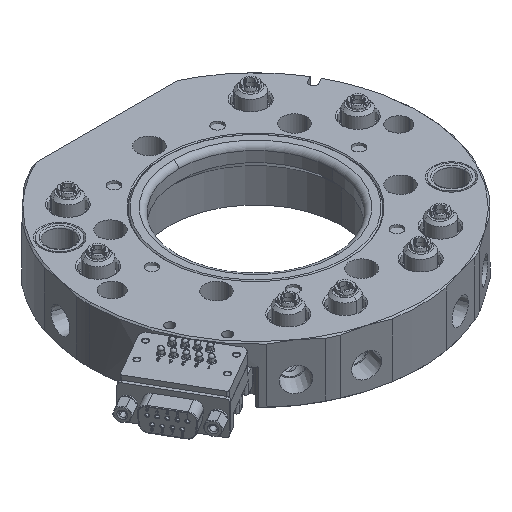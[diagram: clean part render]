
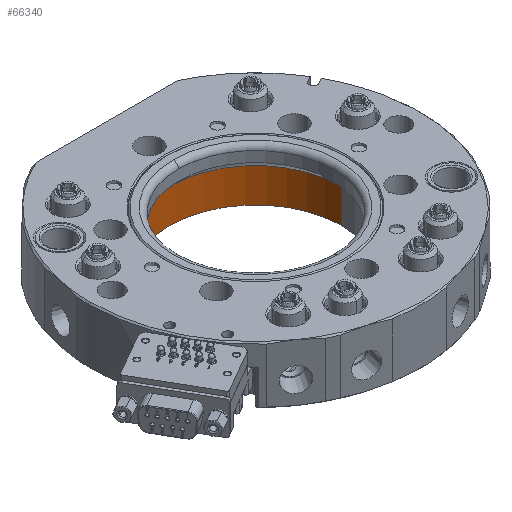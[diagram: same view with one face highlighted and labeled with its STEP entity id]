
A CAD part, isometric view. The second image highlights one B-rep face of the part: STEP entity #66340.
In plain terms, the highlighted cylindrical face has radius 32.2 mm (diameter 64.4 mm), a partial arc.
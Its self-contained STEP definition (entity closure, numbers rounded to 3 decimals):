
#2806 = LINE ( 'NONE', #19590, #66146 ) ;
#3097 = AXIS2_PLACEMENT_3D ( 'NONE', #73820, #15345, #73311 ) ;
#3705 = CARTESIAN_POINT ( 'NONE',  ( 0., 0., 0. ) ) ;
#5723 = VERTEX_POINT ( 'NONE', #50953 ) ;
#7867 = DIRECTION ( 'NONE',  ( 0., 0., 1. ) ) ;
#8357 = VECTOR ( 'NONE', #75417, 1000. ) ;
#14060 = CARTESIAN_POINT ( 'NONE',  ( 0., 0., 28.052 ) ) ;
#14788 = LINE ( 'NONE', #15203, #8357 ) ;
#15203 = CARTESIAN_POINT ( 'NONE',  ( -32.2, 0., 28.052 ) ) ;
#15345 = DIRECTION ( 'NONE',  ( 0., 0., 1. ) ) ;
#15534 = DIRECTION ( 'NONE',  ( 0., -1., 0. ) ) ;
#19590 = CARTESIAN_POINT ( 'NONE',  ( 32.2, 0., 28.052 ) ) ;
#20008 = VERTEX_POINT ( 'NONE', #25301 ) ;
#21524 = CYLINDRICAL_SURFACE ( 'NONE', #54359, 32.2 ) ;
#23252 = ORIENTED_EDGE ( 'NONE', *, *, #75079, .F. ) ;
#25301 = CARTESIAN_POINT ( 'NONE',  ( -32.2, 0., 12.85 ) ) ;
#28719 = ORIENTED_EDGE ( 'NONE', *, *, #44793, .T. ) ;
#31665 = FACE_OUTER_BOUND ( 'NONE', #36981, .T. ) ;
#36981 = EDGE_LOOP ( 'NONE', ( #23252, #50355, #66604, #28719 ) ) ;
#40997 = VERTEX_POINT ( 'NONE', #42025 ) ;
#42025 = CARTESIAN_POINT ( 'NONE',  ( -32.2, 0., 0. ) ) ;
#44520 = DIRECTION ( 'NONE',  ( 0., 0., 1. ) ) ;
#44793 = EDGE_CURVE ( 'NONE', #46764, #20008, #75257, .T. ) ;
#46764 = VERTEX_POINT ( 'NONE', #49170 ) ;
#49170 = CARTESIAN_POINT ( 'NONE',  ( 32.2, 0., 12.85 ) ) ;
#50355 = ORIENTED_EDGE ( 'NONE', *, *, #53722, .F. ) ;
#50953 = CARTESIAN_POINT ( 'NONE',  ( 32.2, 0., 0. ) ) ;
#50959 = EDGE_CURVE ( 'NONE', #5723, #46764, #2806, .T. ) ;
#53722 = EDGE_CURVE ( 'NONE', #5723, #40997, #57498, .T. ) ;
#54359 = AXIS2_PLACEMENT_3D ( 'NONE', #14060, #7867, #60980 ) ;
#57498 = CIRCLE ( 'NONE', #62593, 32.2 ) ;
#60980 = DIRECTION ( 'NONE',  ( 1., 0., 0. ) ) ;
#62593 = AXIS2_PLACEMENT_3D ( 'NONE', #3705, #44520, #15534 ) ;
#66146 = VECTOR ( 'NONE', #72893, 1000. ) ;
#66340 = ADVANCED_FACE ( 'NONE', ( #31665 ), #21524, .F. ) ;
#66604 = ORIENTED_EDGE ( 'NONE', *, *, #50959, .T. ) ;
#72893 = DIRECTION ( 'NONE',  ( 0., 0., 1. ) ) ;
#73311 = DIRECTION ( 'NONE',  ( 1., 0., 0. ) ) ;
#73820 = CARTESIAN_POINT ( 'NONE',  ( 0., 0., 12.85 ) ) ;
#75079 = EDGE_CURVE ( 'NONE', #40997, #20008, #14788, .T. ) ;
#75257 = CIRCLE ( 'NONE', #3097, 32.2 ) ;
#75417 = DIRECTION ( 'NONE',  ( 0., 0., 1. ) ) ;
